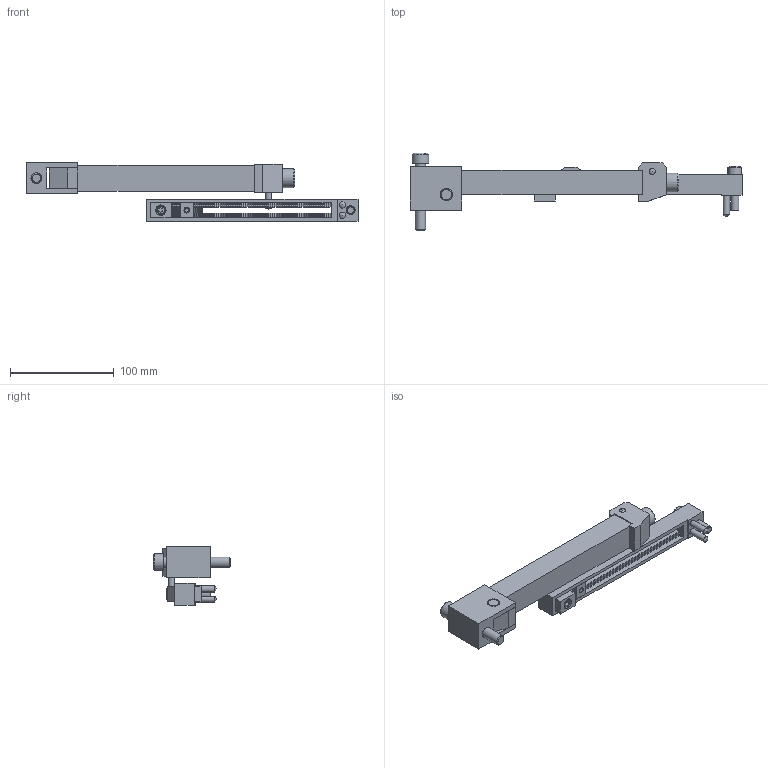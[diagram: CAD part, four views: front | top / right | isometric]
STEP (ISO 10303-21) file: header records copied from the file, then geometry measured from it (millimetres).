
FILE_DESCRIPTION( ( 'STEP AP214' ), '1' );
FILE_NAME( 'p:/temp/worker_5/temp/exporttempdir_3596_303_6V9eI/format_0/BOX200R.stp', '2021-02-11T19:29:36', ( 'License CC BY-ND 4.0' ), ( 'CADENAS' ), ' ', 'PARTsolutions', ' ' );
FILE_SCHEMA( ( 'AUTOMOTIVE_DESIGN { 1 0 10303 214 1 1 1 1 }' ) );
Length unit declared in the file: millimetre
Products named in the file (18): BOX200R; _ZH90/2_head; _ZH90/2_screw1; _ZH90/2_hand; _ZH90/2_screw2; _ZH90/2_he; _ZH90/2_screw3; _ZH90/2_stift1; _ZH90/2_stift2; _ZH90/02_body; _M8-5; _ST2; _ZH90/02_foot1u; _ZH90/02_foot1d; _M5-1; _ZH90/02_foot2u; _ZH90/02_foot2d; _M5-2
Assembly tree (18 placements, depth 2):
  BOX200R
    _ZH90/2_head
    _ZH90/2_screw1
    _ZH90/2_hand
    _ZH90/2_screw2
    _ZH90/2_he
    _ZH90/2_screw3
    _ZH90/2_stift1
    _ZH90/2_stift2
    _ZH90/02_body
    _M8-5
    _ST2  x2
    _ZH90/02_foot1u
    _ZH90/02_foot1d
    _M5-1
    _ZH90/02_foot2u
    _ZH90/02_foot2d
    _M5-2
Bounding box: 320 x 75 x 56.5 mm (x, y, z)
Volume: 243363.9 mm3; surface area: 86101.2 mm2
Topology: 18 solids, 18 shells, 978 faces, 2794 edges, 1855 vertices
Faces by surface type: plane 923, cylinder 32, cone 17, sphere 6
Full cylindrical faces by diameter (mm): 4.134 x1, 5 x3, 5.5 x4, 6 x6, 8 x1, 8.4 x1, 8.5 x2, 10 x3, 10.106 x1, 10.5 x1, 12 x5, 13 x2, 16 x1, 18 x1
Entity records: 39078 total; most frequent: CARTESIAN_POINT 5614, ORIENTED_EDGE 5448, DIRECTION 4824, EDGE_CURVE 2724, LINE 2610, VECTOR 2610, VERTEX_POINT 1845, AXIS2_PLACEMENT_3D 1107
